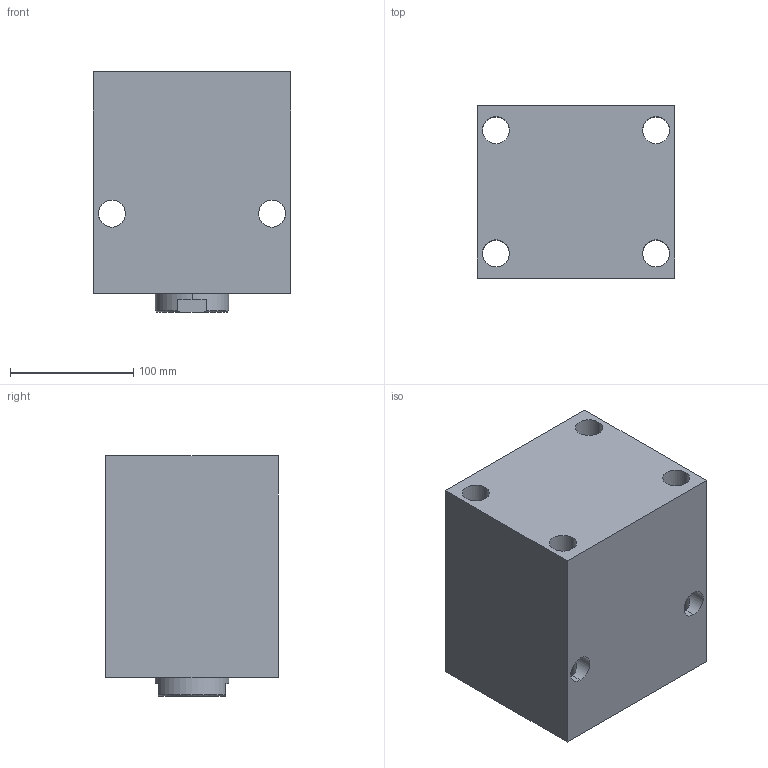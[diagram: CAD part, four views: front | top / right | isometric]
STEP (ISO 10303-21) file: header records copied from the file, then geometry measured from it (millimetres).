
FILE_DESCRIPTION (( 'STEP AP203' ), '1' );
FILE_NAME ('Block cylinder B01C-910F.STEP', '2022-07-09T18:40:20', ( '' ), ( '' ), 'SwSTEP 2.0', 'SolidWorks 2017', '' );
FILE_SCHEMA (( 'CONFIG_CONTROL_DESIGN' ));
Length unit declared in the file: millimetre
Products named in the file (3): Body_ 910F_50ST; Piston _910F; Block cylinder B01C-910F
Assembly tree (2 placements, depth 2):
  Block cylinder B01C-910F
    Body_ 910F_50ST
    Piston _910F
Bounding box: 160 x 140 x 195 mm (x, y, z)
Volume: 3987281.3 mm3; surface area: 271181.7 mm2
Topology: 2 solids, 2 shells, 346 faces, 945 edges, 617 vertices
Faces by surface type: bspline 155, plane 139, cylinder 44, cone 8
Entity records: 17500 total; most frequent: CARTESIAN_POINT 9562, ORIENTED_EDGE 1878, DIRECTION 1047, EDGE_CURVE 939, VERTEX_POINT 617, LINE 531, VECTOR 531, EDGE_LOOP 386
